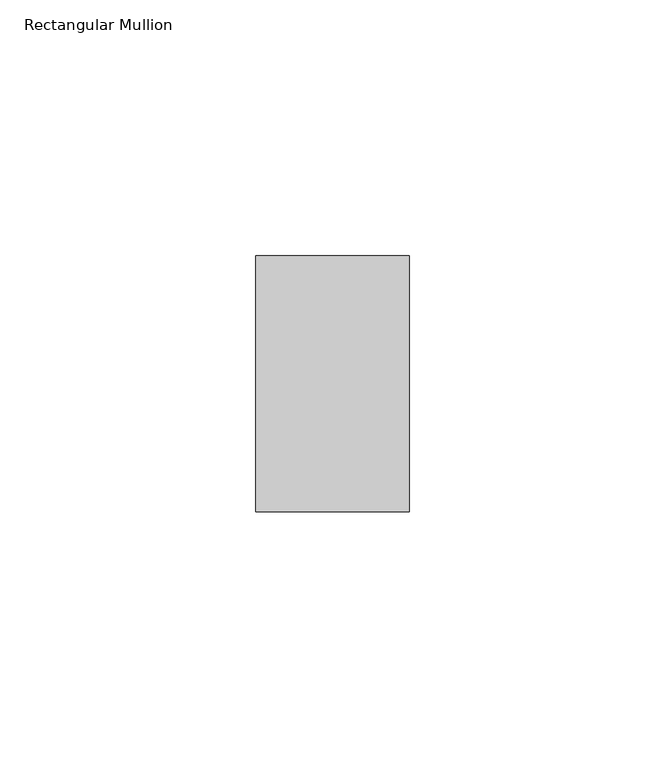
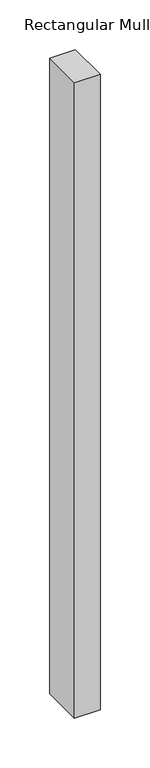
"""IFC4 building model written with IfcOpenShell, lengths in millimetres: member geometry, Rectangular Mullion : ARQ_TV_MULL_50x30mm."""

from ifc_helpers import new_model, si_unit, frame, origin, place, context, project, spatial, polyline, outline, extrude, source, transform, mapped, element, save


def rectangular_mullion_4dd96a3e(model_context):
    return source(origin(), model_context, "Body", "SweptSolid", [
        extrude(outline(polyline([(0.0, 25.0), (0.0, -25.0), (-30.0, -25.0), (-30.0, 25.0), (0.0, 25.0)])), frame((0.0, 0.0, -781.6705252), z_axis=(0.0, 0.0, 1.0), x_axis=(1.0, 0.0, 0.0)), (0.0, 0.0, 1.0), 781.6705252),
    ])


if __name__ == "__main__":
    model = new_model("IFC4")
    model_context = context("Model", 3, world=origin())
    ifc_project = project(units=[si_unit("LENGTHUNIT", "METRE", prefix="MILLI")], contexts=[model_context])
    site = spatial("IfcSite", under=ifc_project)
    building = spatial("IfcBuilding", under=site)
    placement = place(None, origin())
    rectangular_mullion_shape = rectangular_mullion_4dd96a3e(model_context)
    element("IfcMember", 1, ObjectType="Rectangular Mullion : ARQ_TV_MULL_50x30mm", at=placement, inside=building, context=model_context, shape_type="MappedRepresentation", body=[
        mapped(rectangular_mullion_shape, transform((0.0, 0.0, 0.0), x_axis=(1.0, 0.0, 0.0), y_axis=(0.0, 1.0, 0.0), z_axis=(0.0, 0.0, 1.0))),
    ])
    save(model, "model.ifc")
